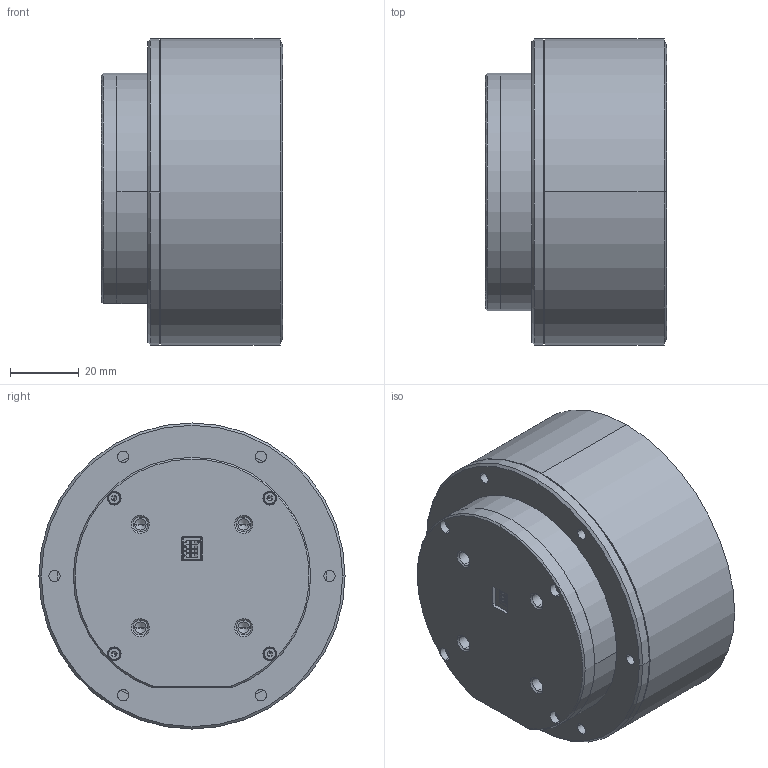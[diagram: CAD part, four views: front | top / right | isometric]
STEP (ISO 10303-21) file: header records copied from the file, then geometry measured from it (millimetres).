
FILE_DESCRIPTION (( 'STEP AP214' ), '1' );
FILE_NAME ('MS9025-3D.STEP', '2022-06-30T16:59:28', ( '' ), ( '' ), 'SwSTEP 2.0', 'SolidWorks 2018', '' );
FILE_SCHEMA (( 'AUTOMOTIVE_DESIGN' ));
Length unit declared in the file: millimetre
Products named in the file (2): MS9025-3D
Bounding box: 52.7 x 89 x 89 mm (x, y, z)
Volume: 242105.1 mm3; surface area: 66817 mm2
Topology: 38 solids, 38 shells, 1194 faces, 3021 edges, 1926 vertices
Faces by surface type: plane 554, cylinder 435, bspline 135, cone 70
Entity records: 52757 total; most frequent: CARTESIAN_POINT 10708, ORIENTED_EDGE 5938, DIRECTION 5832, EDGE_CURVE 2969, AXIS2_PLACEMENT_3D 2062, VERTEX_POINT 1926, LINE 1708, VECTOR 1708
